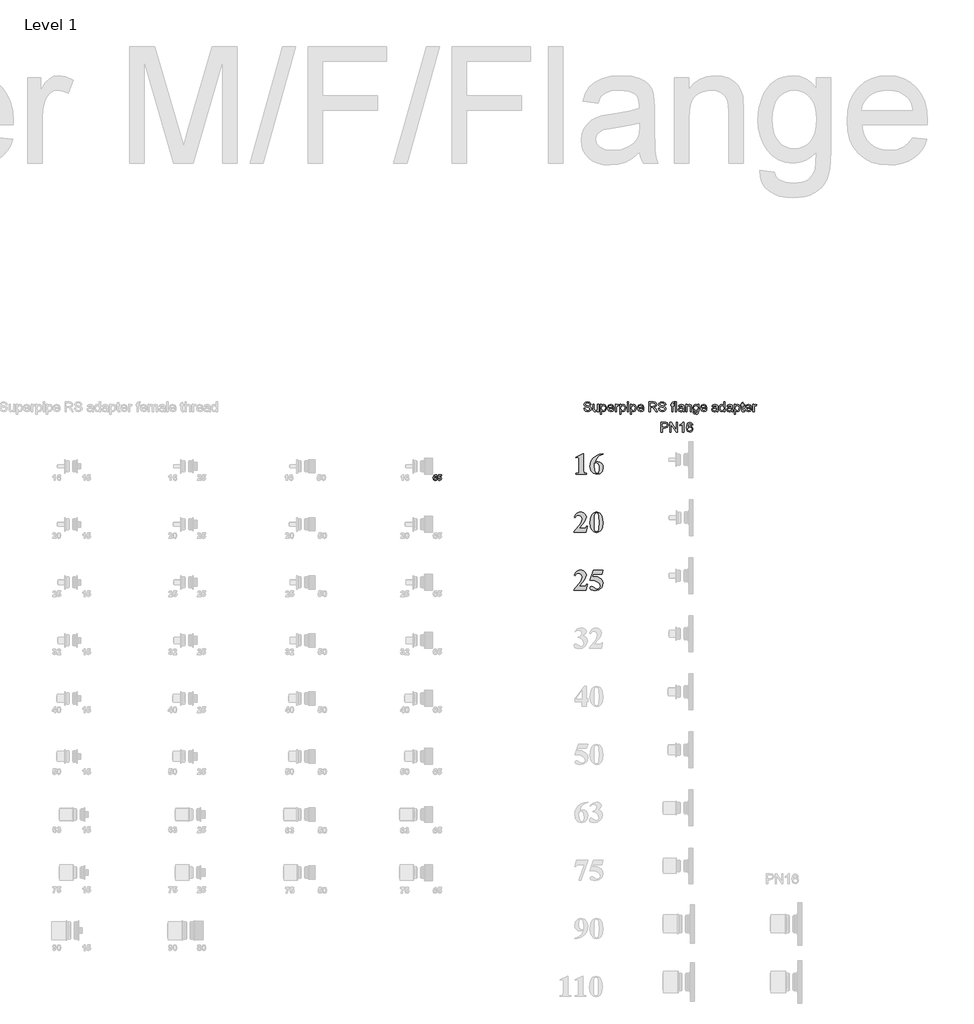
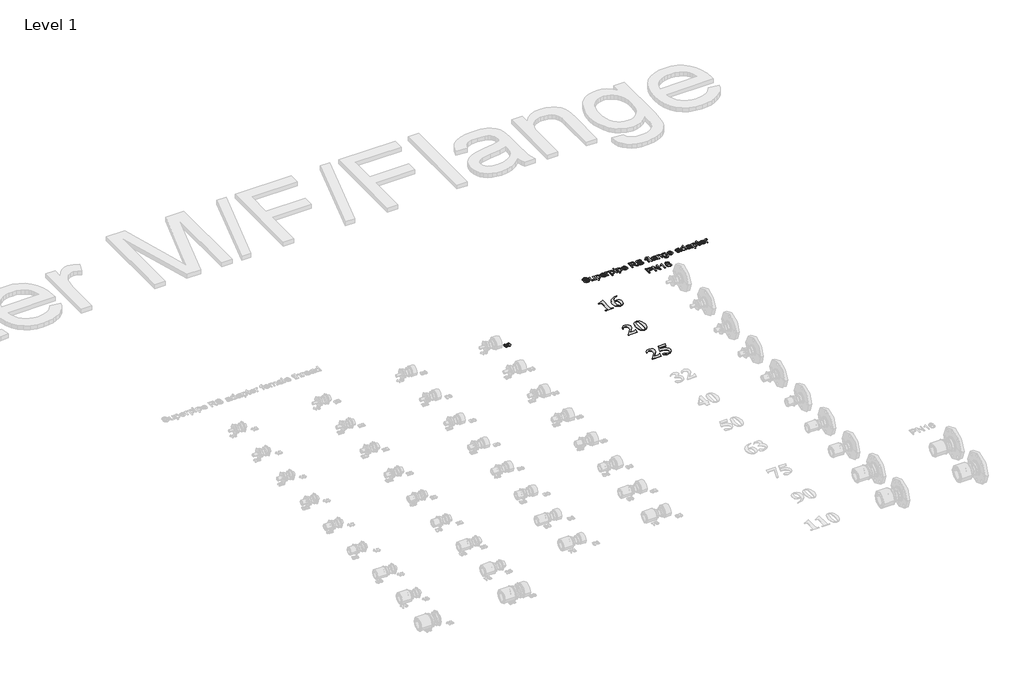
# One storey, part 48 of 57: 6 proxies.
"""IFC4 building model written with IfcOpenShell, lengths in millimetres."""

from ifc_helpers import new_model, si_unit, frame, origin, place, context, project, spatial, polyline, outline, extrude, element, save

model = new_model("IFC4")

# Units and contexts
model_context = context("Model", 3, world=origin())
ifc_project = project(units=[si_unit("LENGTHUNIT", "METRE", prefix="MILLI")], contexts=[model_context])

# Site, building, storey
site = spatial("IfcSite", under=ifc_project)
building = spatial("IfcBuilding", under=site)
storey = spatial("IfcBuildingStorey", under=building, Name="Level 1", Elevation=27.3876384)

# Proxies
placement = place(None, origin())
element("IfcBuildingElementProxy", 1, Name="100mm Arial", ObjectType="100mm Arial", at=placement, inside=storey, context=model_context, shape_type="SweptSolid", body=[
    extrude(outline(polyline([(34348.8058204, 18710.8916255), (34348.8058204, 18627.1351635), (34349.6646513, 18615.4387044), (34353.277194, 18611.2945045), (34362.0836189, 18609.6859006), (34364.510157, 18609.6859006), (34364.510157, 18606.196048), (34308.6725157, 18606.196048), (34308.6725157, 18609.6859006), (34311.4807564, 18609.6859006), (34321.1869089, 18611.1581821), (34325.0993608, 18615.1933242), (34326.1217786, 18627.1351635), (34326.1217786, 18679.4829522), (34325.4674312, 18688.1394225), (34323.0408931, 18691.1248823), (34318.9512221, 18692.3790481), (34309.9812104, 18689.95251), (34308.6725157, 18693.4423626), (34346.3247533, 18710.8916255), (34348.8058204, 18710.8916255)])), frame((0.0, 0.0, 27.3876384), z_axis=(0.0, 0.0, 1.0), x_axis=(1.0, 0.0, 0.0)), (0.0, 0.0, 1.0), 2.0),
    extrude(outline(polyline([(34450.0115453, 18710.8916255), (34450.0115453, 18709.1466992), (34427.9954831, 18700.0676296), (34414.8812715, 18686.5717153), (34407.424438, 18666.91403), (34412.9863906, 18669.4496261), (34422.9651878, 18670.7583208), (34433.5881082, 18668.7032611), (34442.2820671, 18662.5380821), (34448.0791758, 18652.8285215), (34450.0115453, 18640.1403172), (34445.7719197, 18621.8458556), (34433.748287, 18608.9906565), (34417.103326, 18604.4511217), (34399.299625, 18609.6313716), (34386.5398515, 18624.804051), (34381.9594199, 18646.520204), (34384.0621924, 18663.1481247), (34390.37051, 18678.5150634), (34400.5469746, 18691.7519652), (34414.2541886, 18701.989775), (34430.9298221, 18708.5843694), (34450.0115453, 18710.8916255)]), holes=[polyline([(34406.388388, 18661.2975485), (34404.6434617, 18646.1112369), (34406.8382518, 18626.0582168), (34412.8500682, 18612.4668768), (34419.3117484, 18609.6859006), (34426.08697, 18613.7074104), (34429.0724298, 18630.0524621), (34427.7501029, 18647.5698862), (34423.783122, 18658.6801591), (34414.5949945, 18663.7786156), (34406.388388, 18661.2975485)])]), frame((0.0, 0.0, 27.3876384), z_axis=(0.0, 0.0, 1.0), x_axis=(1.0, 0.0, 0.0)), (0.0, 0.0, 1.0), 2.0),
])
element("IfcBuildingElementProxy", 2, Name="100mm Arial", ObjectType="100mm Arial", at=placement, inside=storey, context=model_context, shape_type="SweptSolid", body=[
    extrude(outline(polyline([(34361.8109742, 18306.196048), (34299.9478842, 18306.196048), (34299.9478842, 18307.9409743), (34335.7188732, 18352.5456526), (34341.8261152, 18374.9297852), (34336.6049686, 18388.166687), (34323.8588273, 18393.4423626), (34312.8712446, 18390.5114317), (34304.6646381, 18381.718639), (34301.8563973, 18382.7274246), (34307.1150326, 18395.2281856), (34314.5480097, 18403.9937137), (34323.725913, 18409.1671476), (34334.2193272, 18410.8916255), (34348.7512914, 18407.3063472), (34359.0436301, 18397.4911369), (34362.7652307, 18385.80831), (34357.2578071, 18365.6598643), (34345.2546227, 18349.1171451), (34324.3495878, 18327.1351635), (34346.3247533, 18327.1351635), (34356.8624723, 18327.7349819), (34360.8703498, 18329.7798174), (34365.0009175, 18335.8597949), (34368.0000096, 18335.8597949), (34361.8109742, 18306.196048)])), frame((0.0, 0.0, 27.3876384), z_axis=(0.0, 0.0, 1.0), x_axis=(1.0, 0.0, 0.0)), (0.0, 0.0, 1.0), 2.0),
    extrude(outline(polyline([(34450.0115453, 18357.6713736), (34445.5674362, 18329.0982056), (34438.4514086, 18315.7658781), (34428.3090246, 18307.5047427), (34415.9582182, 18304.4511217), (34402.1760269, 18308.213619), (34391.2838698, 18319.0103504), (34385.3129502, 18332.6425871), (34381.9594199, 18356.4717368), (34386.7852317, 18387.0624758), (34391.7746303, 18397.2491647), (34398.8361289, 18404.7434868), (34415.9582182, 18410.8916255), (34433.0939396, 18404.8252802), (34444.8040309, 18388.5074929), (34450.0115453, 18357.6713736)]), holes=[polyline([(34427.3275035, 18357.6713736), (34426.9730654, 18389.0255179), (34422.8561299, 18403.2303085), (34415.9036892, 18405.6568466), (34410.0690919, 18403.8301269), (34405.7613051, 18394.505677), (34404.6434617, 18347.8561632), (34406.3611236, 18318.6831767), (34410.0554597, 18311.498988), (34416.4217142, 18309.6859006), (34422.8561299, 18312.1124387), (34426.9730654, 18325.1721214), (34427.3275035, 18357.6713736)])]), frame((0.0, 0.0, 27.3876384), z_axis=(0.0, 0.0, 1.0), x_axis=(1.0, 0.0, 0.0)), (0.0, 0.0, 1.0), 2.0),
])
element("IfcBuildingElementProxy", 3, Name="100mm Arial", ObjectType="100mm Arial", at=placement, inside=storey, context=model_context, shape_type="SweptSolid", body=[
    extrude(outline(polyline([(34361.8109742, 18006.196048), (34299.9478842, 18006.196048), (34299.9478842, 18007.9409743), (34335.7188732, 18052.5456526), (34341.8261152, 18074.9297852), (34336.6049686, 18088.166687), (34323.8588273, 18093.4423626), (34312.8712446, 18090.5114317), (34304.6646381, 18081.718639), (34301.8563973, 18082.7274246), (34307.1150326, 18095.2281856), (34314.5480097, 18103.9937137), (34323.725913, 18109.1671476), (34334.2193272, 18110.8916255), (34348.7512914, 18107.3063472), (34359.0436301, 18097.4911369), (34362.7652307, 18085.80831), (34357.2578071, 18065.6598643), (34345.2546227, 18049.1171451), (34324.3495878, 18027.1351635), (34346.3247533, 18027.1351635), (34356.8624723, 18027.7349819), (34360.8703498, 18029.7798174), (34365.0009175, 18035.8597949), (34368.0000096, 18035.8597949), (34361.8109742, 18006.196048)])), frame((0.0, 0.0, 27.3876384), z_axis=(0.0, 0.0, 1.0), x_axis=(1.0, 0.0, 0.0)), (0.0, 0.0, 1.0), 2.0),
    extrude(outline(polyline([(34401.1536091, 18109.1466992), (34450.0115453, 18109.1466992), (34443.0318402, 18088.2075837), (34398.7543355, 18088.2075837), (34395.5643921, 18079.4829522), (34419.8570378, 18075.7068227), (34437.8243258, 18066.3414761), (34446.9647404, 18055.0880647), (34450.0115453, 18041.394483), (34444.3132704, 18022.6910543), (34428.5953015, 18009.0042887), (34406.6065038, 18004.4511217), (34386.7852317, 18009.249669), (34381.9594199, 18016.9655149), (34384.4813837, 18022.8410089), (34390.3568777, 18025.3902372), (34396.4913842, 18024.0815425), (34407.1245288, 18017.1836307), (34415.3038708, 18012.4123479), (34420.729501, 18011.4308268), (34431.5807614, 18015.9976261), (34436.052135, 18026.9715766), (34432.6577081, 18039.0088416), (34422.4744273, 18048.5650395), (34407.1177127, 18054.8017878), (34388.2029843, 18056.8807039), (34381.9594199, 18056.7989104), (34401.1536091, 18109.1466992)])), frame((0.0, 0.0, 27.3876384), z_axis=(0.0, 0.0, 1.0), x_axis=(1.0, 0.0, 0.0)), (0.0, 0.0, 1.0), 2.0),
])
element("IfcBuildingElementProxy", 4, Name="30mm Arial", ObjectType="30mm Arial", at=placement, inside=storey, context=model_context, shape_type="SweptSolid", body=[
    extrude(outline(polyline([(33590.2929, 18596.0640351), (33584.4628463, 18595.4415554), (33583.430441, 18598.0111819), (33581.2593532, 18598.84242), (33578.2684142, 18597.2292867), (33576.7273974, 18590.4541266), (33582.0564309, 18593.0123663), (33588.2167025, 18590.2795286), (33590.7787378, 18583.2272892), (33588.1597684, 18575.8676055), (33581.42636, 18573.0930161), (33574.1843401, 18576.67607), (33571.3452254, 18588.4196808), (33574.3095952, 18600.4897138), (33582.0108836, 18604.1866359), (33587.514515, 18602.1066428), (33590.2929, 18596.0640351)]), holes=[polyline([(33577.1752792, 18583.3563398), (33578.435421, 18579.7163519), (33581.3124918, 18578.437232), (33583.9086876, 18579.4848198), (33584.9486841, 18582.9236405), (33583.8289798, 18586.5256724), (33581.0316168, 18587.6681504), (33578.2949835, 18586.5750153), (33577.1752792, 18583.3563398)])]), frame((0.0, 0.0, 27.3876384), z_axis=(0.0, 0.0, 1.0), x_axis=(1.0, 0.0, 0.0)), (0.0, 0.0, 1.0), 2.0),
    extrude(outline(polyline([(33594.6654403, 18582.1948838), (33600.0096562, 18582.8097723), (33601.4975345, 18579.6138705), (33604.3518316, 18578.437232), (33607.4756169, 18579.685987), (33608.7547368, 18583.4474344), (33607.5667115, 18586.9773498), (33604.4732911, 18588.1539882), (33600.2070278, 18585.7247992), (33595.1512781, 18586.4763295), (33598.5521428, 18603.7007981), (33613.1272771, 18603.7007981), (33613.1272771, 18597.8707444), (33603.2662878, 18597.8707444), (33602.0896493, 18592.3063832), (33605.8473011, 18593.4982041), (33612.0417332, 18590.7387972), (33614.5847905, 18583.5764851), (33612.4668413, 18577.0252659), (33604.4429262, 18573.0930161), (33597.7588607, 18575.5601612), (33594.6654403, 18582.1948838)])), frame((0.0, 0.0, 27.3876384), z_axis=(0.0, 0.0, 1.0), x_axis=(1.0, 0.0, 0.0)), (0.0, 0.0, 1.0), 2.0),
])
element("IfcBuildingElementProxy", 5, Name="50mm Arial", ObjectType="50mm Arial", at=placement, inside=storey, context=model_context, shape_type="SweptSolid", body=[
    extrude(outline(polyline([(34349.6871322, 18946.7630144), (34355.9656516, 18946.7630144), (34357.9890026, 18940.4783637), (34362.930884, 18936.5052381), (34370.4602022, 18934.9907906), (34377.0207645, 18936.1373562), (34381.2575388, 18939.2888786), (34382.649359, 18943.5011274), (34381.6070267, 18947.4190707), (34377.3395955, 18950.2701561), (34368.1977279, 18952.6675205), (34358.3568846, 18955.7638606), (34353.0164643, 18960.4359619), (34351.2567621, 18966.6776931), (34353.4333972, 18973.783947), (34359.7916244, 18978.7994049), (34369.0990388, 18980.5100561), (34379.0318527, 18978.7196971), (34385.6537286, 18973.4589846), (34388.1430635, 18965.5985726), (34381.8645441, 18965.5985726), (34378.3083514, 18972.0487702), (34369.3442935, 18974.2315368), (34360.3557101, 18972.0732957), (34357.5352815, 18966.8616341), (34359.534107, 18962.5083638), (34369.7857519, 18959.0012222), (34380.8957881, 18955.8496997), (34386.9719724, 18950.7606655), (34388.9278784, 18943.660543), (34386.6776668, 18936.1496189), (34380.2029437, 18930.6681772), (34370.7054569, 18928.7122712), (34359.4911874, 18930.8214613), (34352.3971963, 18937.1735571), (34349.6871322, 18946.7630144)])), frame((0.0, 0.0, 27.3876384), z_axis=(0.0, 0.0, 1.0), x_axis=(1.0, 0.0, 0.0)), (0.0, 0.0, 1.0), 2.0),
    extrude(outline(polyline([(34421.1052902, 18929.4970861), (34421.1052902, 18935.8369192), (34416.1879342, 18930.4934332), (34409.7745248, 18928.7122712), (34403.8700187, 18929.96307), (34399.7987913, 18933.1023297), (34397.9287245, 18937.7253801), (34397.5608425, 18943.5624411), (34397.5608425, 18966.3833875), (34403.8393619, 18966.3833875), (34403.8393619, 18946.5177598), (34404.2195066, 18940.1166131), (34406.7027101, 18936.3580853), (34411.3809428, 18934.9907906), (34416.6232612, 18936.3887422), (34420.0874834, 18940.1963208), (34421.1052902, 18947.1922101), (34421.1052902, 18966.3833875), (34427.3838096, 18966.3833875), (34427.3838096, 18929.4970861), (34421.1052902, 18929.4970861)])), frame((0.0, 0.0, 27.3876384), z_axis=(0.0, 0.0, 1.0), x_axis=(1.0, 0.0, 0.0)), (0.0, 0.0, 1.0), 2.0),
    extrude(outline(polyline([(34436.0167738, 18915.3704175), (34436.0167738, 18966.3833875), (34442.2952931, 18966.3833875), (34442.2952931, 18960.2274955), (34446.6363007, 18965.4330257), (34452.4978871, 18967.1682024), (34460.456401, 18964.7401813), (34465.6557998, 18957.8975762), (34467.4093707, 18948.2222797), (34465.4289393, 18938.0503425), (34459.6777174, 18931.1218983), (34451.7375977, 18928.7122712), (34446.2745501, 18930.3248206), (34442.2952931, 18934.4021794), (34442.2952931, 18915.3704175), (34436.0167738, 18915.3704175)]), holes=[polyline([(34442.2952931, 18947.6459312), (34445.0114885, 18938.0809994), (34451.6027076, 18934.9907906), (34458.3288168, 18938.191364), (34461.1308513, 18948.1119151), (34458.3962618, 18957.7013724), (34451.860225, 18960.8896831), (34445.1954295, 18957.4990373), (34442.2952931, 18947.6459312)])]), frame((0.0, 0.0, 27.3876384), z_axis=(0.0, 0.0, 1.0), x_axis=(1.0, 0.0, 0.0)), (0.0, 0.0, 1.0), 2.0),
    extrude(outline(polyline([(34500.298021, 18940.4844951), (34506.4539131, 18939.6996801), (34500.6965599, 18931.5940135), (34489.9727997, 18928.7122712), (34476.9375144, 18933.6848095), (34472.1182602, 18947.6336685), (34476.9865653, 18962.04238), (34489.6171805, 18967.1682024), (34501.886045, 18962.0546427), (34506.6501168, 18947.6704567), (34506.6133286, 18945.9781995), (34478.3967796, 18945.9781995), (34482.0081545, 18937.823482), (34490.095427, 18934.9907906), (34496.2513191, 18936.3029031), (34500.298021, 18940.4844951)]), holes=[polyline([(34478.3967796, 18952.2567189), (34500.3715974, 18952.2567189), (34497.8577371, 18957.9466271), (34489.592655, 18960.8896831), (34481.8610017, 18958.5413697), (34478.3967796, 18952.2567189)])]), frame((0.0, 0.0, 27.3876384), z_axis=(0.0, 0.0, 1.0), x_axis=(1.0, 0.0, 0.0)), (0.0, 0.0, 1.0), 2.0),
    extrude(outline(polyline([(34512.9286362, 18929.4970861), (34512.9286362, 18966.3833875), (34518.4223407, 18966.3833875), (34518.4223407, 18960.9264713), (34522.3218898, 18965.9541919), (34526.2459644, 18967.1682024), (34532.5490093, 18965.2306906), (34530.4520819, 18959.6020961), (34526.037498, 18960.8896831), (34522.4874367, 18959.651147), (34520.2249625, 18956.2175817), (34519.2071556, 18948.8844673), (34519.2071556, 18929.4970861), (34512.9286362, 18929.4970861)])), frame((0.0, 0.0, 27.3876384), z_axis=(0.0, 0.0, 1.0), x_axis=(1.0, 0.0, 0.0)), (0.0, 0.0, 1.0), 2.0),
    extrude(outline(polyline([(34536.4730839, 18915.3704175), (34536.4730839, 18966.3833875), (34542.7516033, 18966.3833875), (34542.7516033, 18960.2274955), (34547.0926108, 18965.4330257), (34552.9541973, 18967.1682024), (34560.9127111, 18964.7401813), (34566.11211, 18957.8975762), (34567.8656808, 18948.2222797), (34565.8852494, 18938.0503425), (34560.1340276, 18931.1218983), (34552.1939078, 18928.7122712), (34546.7308602, 18930.3248206), (34542.7516033, 18934.4021794), (34542.7516033, 18915.3704175), (34536.4730839, 18915.3704175)]), holes=[polyline([(34542.7516033, 18947.6459312), (34545.4677987, 18938.0809994), (34552.0590178, 18934.9907906), (34558.7851269, 18938.191364), (34561.5871614, 18948.1119151), (34558.8525719, 18957.7013724), (34552.3165352, 18960.8896831), (34545.6517397, 18957.4990373), (34542.7516033, 18947.6459312)])]), frame((0.0, 0.0, 27.3876384), z_axis=(0.0, 0.0, 1.0), x_axis=(1.0, 0.0, 0.0)), (0.0, 0.0, 1.0), 2.0),
    extrude(outline(polyline([(34574.9290151, 18929.4970861), (34574.9290151, 18966.3833875), (34581.2075345, 18966.3833875), (34581.2075345, 18929.4970861), (34574.9290151, 18929.4970861)])), frame((0.0, 0.0, 27.3876384), z_axis=(0.0, 0.0, 1.0), x_axis=(1.0, 0.0, 0.0)), (0.0, 0.0, 1.0), 2.0),
    extrude(outline(polyline([(34574.9290151, 18973.4467218), (34574.9290151, 18979.7252412), (34581.2075345, 18979.7252412), (34581.2075345, 18973.4467218), (34574.9290151, 18973.4467218)])), frame((0.0, 0.0, 27.3876384), z_axis=(0.0, 0.0, 1.0), x_axis=(1.0, 0.0, 0.0)), (0.0, 0.0, 1.0), 2.0),
    extrude(outline(polyline([(34590.6253136, 18915.3704175), (34590.6253136, 18966.3833875), (34596.903833, 18966.3833875), (34596.903833, 18960.2274955), (34601.2448405, 18965.4330257), (34607.106427, 18967.1682024), (34615.0649408, 18964.7401813), (34620.2643397, 18957.8975762), (34622.0179105, 18948.2222797), (34620.0374791, 18938.0503425), (34614.2862573, 18931.1218983), (34606.3461375, 18928.7122712), (34600.8830899, 18930.3248206), (34596.903833, 18934.4021794), (34596.903833, 18915.3704175), (34590.6253136, 18915.3704175)]), holes=[polyline([(34596.903833, 18947.6459312), (34599.6200284, 18938.0809994), (34606.2112475, 18934.9907906), (34612.9373566, 18938.191364), (34615.7393911, 18948.1119151), (34613.0048016, 18957.7013724), (34606.4687649, 18960.8896831), (34599.8039694, 18957.4990373), (34596.903833, 18947.6459312)])]), frame((0.0, 0.0, 27.3876384), z_axis=(0.0, 0.0, 1.0), x_axis=(1.0, 0.0, 0.0)), (0.0, 0.0, 1.0), 2.0),
    extrude(outline(polyline([(34654.9065609, 18940.4844951), (34661.0624529, 18939.6996801), (34655.3050997, 18931.5940135), (34644.5813396, 18928.7122712), (34631.5460542, 18933.6848095), (34626.7268001, 18947.6336685), (34631.5951051, 18962.04238), (34644.2257203, 18967.1682024), (34656.4945848, 18962.0546427), (34661.2586567, 18947.6704567), (34661.2218685, 18945.9781995), (34633.0053194, 18945.9781995), (34636.6166944, 18937.823482), (34644.7039669, 18934.9907906), (34650.8598589, 18936.3029031), (34654.9065609, 18940.4844951)]), holes=[polyline([(34633.0053194, 18952.2567189), (34654.9801373, 18952.2567189), (34652.466277, 18957.9466271), (34644.2011948, 18960.8896831), (34636.4695416, 18958.5413697), (34633.0053194, 18952.2567189)])]), frame((0.0, 0.0, 27.3876384), z_axis=(0.0, 0.0, 1.0), x_axis=(1.0, 0.0, 0.0)), (0.0, 0.0, 1.0), 2.0),
    extrude(outline(polyline([(34687.9423641, 18929.4970861), (34687.9423641, 18979.7252412), (34709.5860881, 18979.7252412), (34719.6353979, 18978.3702092), (34725.1291024, 18973.5754805), (34727.1831102, 18965.9787173), (34723.7802018, 18956.9288202), (34713.2649081, 18952.2567189), (34716.8333634, 18949.5711803), (34721.9223977, 18943.10872), (34730.2978444, 18929.4970861), (34723.0015182, 18929.4970861), (34716.4654814, 18939.9081466), (34711.7443291, 18946.7998026), (34708.4272598, 18950.0555583), (34705.4412843, 18951.2511748), (34701.7992525, 18951.471904), (34694.2208834, 18951.471904), (34694.2208834, 18929.4970861), (34687.9423641, 18929.4970861)]), holes=[polyline([(34694.2208834, 18957.7504234), (34708.2739757, 18957.7504234), (34715.4415432, 18958.6394715), (34719.5127706, 18961.4844256), (34720.9045908, 18965.7457254), (34718.2497091, 18971.2762181), (34709.8558682, 18973.4467218), (34694.2208834, 18973.4467218), (34694.2208834, 18957.7504234)])]), frame((0.0, 0.0, 27.3876384), z_axis=(0.0, 0.0, 1.0), x_axis=(1.0, 0.0, 0.0)), (0.0, 0.0, 1.0), 2.0),
    extrude(outline(polyline([(34735.8160744, 18946.7630144), (34742.0945937, 18946.7630144), (34744.1179447, 18940.4783637), (34749.0598262, 18936.5052381), (34756.5891444, 18934.9907906), (34763.1497066, 18936.1373562), (34767.3864809, 18939.2888786), (34768.7783011, 18943.5011274), (34767.7359688, 18947.4190707), (34763.4685377, 18950.2701561), (34754.3266701, 18952.6675205), (34744.4858267, 18955.7638606), (34739.1454064, 18960.4359619), (34737.3857042, 18966.6776931), (34739.5623393, 18973.783947), (34745.9205665, 18978.7994049), (34755.227981, 18980.5100561), (34765.1607948, 18978.7196971), (34771.7826708, 18973.4589846), (34774.2720056, 18965.5985726), (34767.9934862, 18965.5985726), (34764.4372936, 18972.0487702), (34755.4732356, 18974.2315368), (34746.4846522, 18972.0732957), (34743.6642236, 18966.8616341), (34745.6630491, 18962.5083638), (34755.914694, 18959.0012222), (34767.0247303, 18955.8496997), (34773.1009146, 18950.7606655), (34775.0568205, 18943.660543), (34772.806609, 18936.1496189), (34766.3318859, 18930.6681772), (34756.834399, 18928.7122712), (34745.6201295, 18930.8214613), (34738.5261384, 18937.1735571), (34735.8160744, 18946.7630144)])), frame((0.0, 0.0, 27.3876384), z_axis=(0.0, 0.0, 1.0), x_axis=(1.0, 0.0, 0.0)), (0.0, 0.0, 1.0), 2.0),
    extrude(outline(polyline([(34804.8797876, 18929.4970861), (34804.8797876, 18960.1048681), (34799.3860831, 18960.1048681), (34799.3860831, 18966.3833875), (34804.8797876, 18966.3833875), (34804.8797876, 18970.0989957), (34805.5419752, 18975.3351827), (34808.7548113, 18979.0753164), (34815.0823816, 18980.5100561), (34820.809078, 18979.8233431), (34819.889373, 18973.9372312), (34816.2718667, 18974.2315368), (34812.3171353, 18973.1892044), (34811.158307, 18969.301918), (34811.158307, 18966.3833875), (34818.2216413, 18966.3833875), (34818.2216413, 18960.1048681), (34811.158307, 18960.1048681), (34811.158307, 18929.4970861), (34804.8797876, 18929.4970861)])), frame((0.0, 0.0, 27.3876384), z_axis=(0.0, 0.0, 1.0), x_axis=(1.0, 0.0, 0.0)), (0.0, 0.0, 1.0), 2.0),
    extrude(outline(polyline([(34823.7153457, 18929.4970861), (34823.7153457, 18979.7252412), (34829.9938651, 18979.7252412), (34829.9938651, 18929.4970861), (34823.7153457, 18929.4970861)])), frame((0.0, 0.0, 27.3876384), z_axis=(0.0, 0.0, 1.0), x_axis=(1.0, 0.0, 0.0)), (0.0, 0.0, 1.0), 2.0),
    extrude(outline(polyline([(34862.9560919, 18934.2059757), (34856.8676449, 18929.9508073), (34850.1415357, 18928.7122712), (34841.0241936, 18931.6921154), (34837.8420144, 18939.3072727), (34839.0437622, 18944.2736796), (34842.201416, 18947.8789232), (34846.5976058, 18949.9390623), (34852.0299966, 18950.8832928), (34862.9193037, 18953.0415338), (34861.2270465, 18959.0747986), (34854.2863395, 18960.8896831), (34847.9342438, 18959.6818038), (34844.9053487, 18955.3959786), (34838.6268293, 18956.1807935), (34841.3430247, 18962.3121601), (34846.8122037, 18965.9051409), (34855.0956799, 18967.1682024), (34862.7047059, 18966.0522937), (34867.0027938, 18963.2502592), (34868.9280429, 18958.9889594), (34869.2346113, 18953.495255), (34869.2346113, 18945.6838939), (34869.5534423, 18934.7761928), (34870.8042411, 18929.4970861), (34864.5257217, 18929.4970861), (34862.9560919, 18934.2059757)]), holes=[polyline([(34862.9560919, 18946.7630144), (34852.8270743, 18944.8377653), (34847.4253403, 18943.8199585), (34844.9789251, 18942.1644895), (34844.1205337, 18939.7487311), (34845.9906005, 18936.351954), (34851.4781736, 18934.9907906), (34857.8302694, 18936.4929754), (34861.9260223, 18940.1288758), (34862.9193037, 18944.9849181), (34862.9560919, 18946.7630144)])]), frame((0.0, 0.0, 27.3876384), z_axis=(0.0, 0.0, 1.0), x_axis=(1.0, 0.0, 0.0)), (0.0, 0.0, 1.0), 2.0),
    extrude(outline(polyline([(34877.8675754, 18929.4970861), (34877.8675754, 18966.3833875), (34884.1460948, 18966.3833875), (34884.1460948, 18961.2330396), (34888.9469549, 18965.6844117), (34895.5013857, 18967.1682024), (34901.4304172, 18965.972586), (34905.4771192, 18962.8333263), (34907.3594487, 18958.2164072), (34907.6905425, 18952.1463543), (34907.6905425, 18929.4970861), (34901.4120231, 18929.4970861), (34901.4120231, 18951.3002257), (34900.6885219, 18956.8552438), (34898.131742, 18959.7921684), (34893.8213913, 18960.8896831), (34887.009443, 18958.4248737), (34884.1460948, 18949.0684083), (34884.1460948, 18929.4970861), (34877.8675754, 18929.4970861)])), frame((0.0, 0.0, 27.3876384), z_axis=(0.0, 0.0, 1.0), x_axis=(1.0, 0.0, 0.0)), (0.0, 0.0, 1.0), 2.0),
    extrude(outline(polyline([(34914.7538768, 18926.3578264), (34921.0323962, 18925.5730115), (34923.0680099, 18922.2620736), (34929.1625883, 18920.864122), (34935.5882605, 18922.4460146), (34938.6539438, 18926.885124), (34939.0831394, 18934.2059757), (34929.2729529, 18929.4970861), (34922.7997626, 18930.8674466), (34917.9728443, 18934.9785279), (34913.9690619, 18948.1241778), (34915.7655523, 18957.8546566), (34920.9649512, 18964.7401813), (34928.9663846, 18967.1682024), (34939.0831394, 18961.674498), (34939.0831394, 18966.3833875), (34945.3616588, 18966.3833875), (34945.3616588, 18934.5370695), (34943.6448762, 18922.3417813), (34938.206354, 18916.6702672), (34929.039961, 18914.5856026), (34918.5982437, 18917.5225272), (34914.7538768, 18926.3578264)]), holes=[polyline([(34920.2475813, 18948.5533735), (34922.9269885, 18938.8351575), (34929.6530976, 18935.7756055), (34936.366944, 18938.8167634), (34939.0831394, 18948.3694325), (34936.2872363, 18957.7320293), (34929.5549958, 18960.8896831), (34922.9637767, 18957.7810802), (34920.2475813, 18948.5533735)])]), frame((0.0, 0.0, 27.3876384), z_axis=(0.0, 0.0, 1.0), x_axis=(1.0, 0.0, 0.0)), (0.0, 0.0, 1.0), 2.0),
    extrude(outline(polyline([(34980.604754, 18940.4844951), (34986.760646, 18939.6996801), (34981.0032928, 18931.5940135), (34970.2795326, 18928.7122712), (34957.2442473, 18933.6848095), (34952.4249931, 18947.6336685), (34957.2932982, 18962.04238), (34969.9239134, 18967.1682024), (34982.1927779, 18962.0546427), (34986.9568497, 18947.6704567), (34986.9200615, 18945.9781995), (34958.7035125, 18945.9781995), (34962.3148874, 18937.823482), (34970.40216, 18934.9907906), (34976.558052, 18936.3029031), (34980.604754, 18940.4844951)]), holes=[polyline([(34958.7035125, 18952.2567189), (34980.6783303, 18952.2567189), (34978.16447, 18957.9466271), (34969.8993879, 18960.8896831), (34962.1677346, 18958.5413697), (34958.7035125, 18952.2567189)])]), frame((0.0, 0.0, 27.3876384), z_axis=(0.0, 0.0, 1.0), x_axis=(1.0, 0.0, 0.0)), (0.0, 0.0, 1.0), 2.0),
    extrude(outline(polyline([(35036.4001899, 18934.2059757), (35030.3117429, 18929.9508073), (35023.5856337, 18928.7122712), (35014.4682916, 18931.6921154), (35011.2861123, 18939.3072727), (35012.4878602, 18944.2736796), (35015.645514, 18947.8789232), (35020.0417038, 18949.9390623), (35025.4740946, 18950.8832928), (35036.3634017, 18953.0415338), (35034.6711445, 18959.0747986), (35027.7304375, 18960.8896831), (35021.3783417, 18959.6818038), (35018.3494467, 18955.3959786), (35012.0709273, 18956.1807935), (35014.7871227, 18962.3121601), (35020.2563017, 18965.9051409), (35028.5397779, 18967.1682024), (35036.1488039, 18966.0522937), (35040.4468918, 18963.2502592), (35042.3721409, 18958.9889594), (35042.6787093, 18953.495255), (35042.6787093, 18945.6838939), (35042.9975403, 18934.7761928), (35044.2483391, 18929.4970861), (35037.9698197, 18929.4970861), (35036.4001899, 18934.2059757)]), holes=[polyline([(35036.4001899, 18946.7630144), (35026.2711723, 18944.8377653), (35020.8694383, 18943.8199585), (35018.4230231, 18942.1644895), (35017.5646317, 18939.7487311), (35019.4346985, 18936.351954), (35024.9222716, 18934.9907906), (35031.2743674, 18936.4929754), (35035.3701203, 18940.1288758), (35036.3634017, 18944.9849181), (35036.4001899, 18946.7630144)])]), frame((0.0, 0.0, 27.3876384), z_axis=(0.0, 0.0, 1.0), x_axis=(1.0, 0.0, 0.0)), (0.0, 0.0, 1.0), 2.0),
    extrude(outline(polyline([(35074.0713062, 18929.4970861), (35074.0713062, 18935.4199863), (35069.9173053, 18930.3892), (35064.1752805, 18928.7122712), (35056.4007077, 18931.1402924), (35050.9070032, 18937.9154525), (35048.9572287, 18947.9034486), (35050.7537191, 18957.8975762), (35056.1370589, 18964.7769695), (35064.1507551, 18967.1682024), (35069.9387651, 18965.4575512), (35074.0713062, 18961.0123104), (35074.0713062, 18979.7252412), (35080.3498256, 18979.7252412), (35080.3498256, 18929.4970861), (35074.0713062, 18929.4970861)]), holes=[polyline([(35055.235748, 18947.9279741), (35058.0684394, 18938.2097581), (35064.751629, 18934.9907906), (35071.3551108, 18938.0626053), (35074.0713062, 18947.4497275), (35071.3060599, 18957.6400588), (35064.4941116, 18960.8896831), (35057.8844984, 18957.7688175), (35055.235748, 18947.9279741)])]), frame((0.0, 0.0, 27.3876384), z_axis=(0.0, 0.0, 1.0), x_axis=(1.0, 0.0, 0.0)), (0.0, 0.0, 1.0), 2.0),
    extrude(outline(polyline([(35113.3120523, 18934.2059757), (35107.2236053, 18929.9508073), (35100.4974962, 18928.7122712), (35091.3801541, 18931.6921154), (35088.1979748, 18939.3072727), (35089.3997227, 18944.2736796), (35092.5573764, 18947.8789232), (35096.9535663, 18949.9390623), (35102.3859571, 18950.8832928), (35113.2752641, 18953.0415338), (35111.583007, 18959.0747986), (35104.6423, 18960.8896831), (35098.2902042, 18959.6818038), (35095.2613091, 18955.3959786), (35088.9827897, 18956.1807935), (35091.6989851, 18962.3121601), (35097.1681641, 18965.9051409), (35105.4516404, 18967.1682024), (35113.0606663, 18966.0522937), (35117.3587543, 18963.2502592), (35119.2840034, 18958.9889594), (35119.5905717, 18953.495255), (35119.5905717, 18945.6838939), (35119.9094028, 18934.7761928), (35121.1602016, 18929.4970861), (35114.8816822, 18929.4970861), (35113.3120523, 18934.2059757)]), holes=[polyline([(35113.3120523, 18946.7630144), (35103.1830347, 18944.8377653), (35097.7813008, 18943.8199585), (35095.3348855, 18942.1644895), (35094.4764942, 18939.7487311), (35096.346561, 18936.351954), (35101.8341341, 18934.9907906), (35108.1862299, 18936.4929754), (35112.2819828, 18940.1288758), (35113.2752641, 18944.9849181), (35113.3120523, 18946.7630144)])]), frame((0.0, 0.0, 27.3876384), z_axis=(0.0, 0.0, 1.0), x_axis=(1.0, 0.0, 0.0)), (0.0, 0.0, 1.0), 2.0),
    extrude(outline(polyline([(35128.2235359, 18915.3704175), (35128.2235359, 18966.3833875), (35134.5020553, 18966.3833875), (35134.5020553, 18960.2274955), (35138.8430628, 18965.4330257), (35144.7046493, 18967.1682024), (35152.6631631, 18964.7401813), (35157.862562, 18957.8975762), (35159.6161328, 18948.2222797), (35157.6357014, 18938.0503425), (35151.8844795, 18931.1218983), (35143.9443598, 18928.7122712), (35138.4813122, 18930.3248206), (35134.5020553, 18934.4021794), (35134.5020553, 18915.3704175), (35128.2235359, 18915.3704175)]), holes=[polyline([(35134.5020553, 18947.6459312), (35137.2182507, 18938.0809994), (35143.8094697, 18934.9907906), (35150.5355789, 18938.191364), (35153.3376134, 18948.1119151), (35150.6030239, 18957.7013724), (35144.0669871, 18960.8896831), (35137.4021917, 18957.4990373), (35134.5020553, 18947.6459312)])]), frame((0.0, 0.0, 27.3876384), z_axis=(0.0, 0.0, 1.0), x_axis=(1.0, 0.0, 0.0)), (0.0, 0.0, 1.0), 2.0),
    extrude(outline(polyline([(35180.0213208, 18934.7332732), (35180.8061357, 18929.3131451), (35176.1095089, 18928.7122712), (35170.8487964, 18929.7546035), (35168.2245715, 18932.489193), (35167.464282, 18939.613841), (35167.464282, 18960.1048681), (35162.7553925, 18960.1048681), (35162.7553925, 18966.3833875), (35167.464282, 18966.3833875), (35167.464282, 18975.3474455), (35173.7428014, 18979.0385282), (35173.7428014, 18966.3833875), (35180.0213208, 18966.3833875), (35180.0213208, 18960.1048681), (35173.7428014, 18960.1048681), (35173.7428014, 18939.797782), (35174.0738952, 18936.5604204), (35177.2867313, 18934.9907906), (35180.0213208, 18934.7332732)])), frame((0.0, 0.0, 27.3876384), z_axis=(0.0, 0.0, 1.0), x_axis=(1.0, 0.0, 0.0)), (0.0, 0.0, 1.0), 2.0),
    extrude(outline(polyline([(35212.1251562, 18940.4844951), (35218.2810483, 18939.6996801), (35212.5236951, 18931.5940135), (35201.7999349, 18928.7122712), (35188.7646496, 18933.6848095), (35183.9453954, 18947.6336685), (35188.8137005, 18962.04238), (35201.4443157, 18967.1682024), (35213.7131802, 18962.0546427), (35218.477252, 18947.6704567), (35218.4404638, 18945.9781995), (35190.2239148, 18945.9781995), (35193.8352897, 18937.823482), (35201.9225622, 18934.9907906), (35208.0784543, 18936.3029031), (35212.1251562, 18940.4844951)]), holes=[polyline([(35190.2239148, 18952.2567189), (35212.1987326, 18952.2567189), (35209.6848723, 18957.9466271), (35201.4197902, 18960.8896831), (35193.6881369, 18958.5413697), (35190.2239148, 18952.2567189)])]), frame((0.0, 0.0, 27.3876384), z_axis=(0.0, 0.0, 1.0), x_axis=(1.0, 0.0, 0.0)), (0.0, 0.0, 1.0), 2.0),
    extrude(outline(polyline([(35224.7557714, 18929.4970861), (35224.7557714, 18966.3833875), (35230.2494759, 18966.3833875), (35230.2494759, 18960.9264713), (35234.149025, 18965.9541919), (35238.0730996, 18967.1682024), (35244.3761445, 18965.2306906), (35242.2792171, 18959.6020961), (35237.8646332, 18960.8896831), (35234.3145719, 18959.651147), (35232.0520977, 18956.2175817), (35231.0342908, 18948.8844673), (35231.0342908, 18929.4970861), (35224.7557714, 18929.4970861)])), frame((0.0, 0.0, 27.3876384), z_axis=(0.0, 0.0, 1.0), x_axis=(1.0, 0.0, 0.0)), (0.0, 0.0, 1.0), 2.0),
])
element("IfcBuildingElementProxy", 6, Name="50mm Arial", ObjectType="50mm Arial", at=placement, inside=storey, context=model_context, shape_type="SweptSolid", body=[
    extrude(outline(polyline([(34749.2053193, 18823.7542645), (34749.2053193, 18873.9824196), (34767.8201483, 18873.9824196), (34775.324941, 18873.504173), (34781.4256507, 18871.1558596), (34785.3803822, 18866.2998172), (34786.8764356, 18859.4510808), (34782.835865, 18848.5985619), (34768.2493439, 18844.1594525), (34755.4838387, 18844.1594525), (34755.4838387, 18823.7542645), (34749.2053193, 18823.7542645)]), holes=[polyline([(34755.4838387, 18850.4379719), (34768.6172259, 18850.4379719), (34777.8633267, 18852.7433657), (34780.5979162, 18859.2303516), (34778.9853668, 18864.4297504), (34774.7485925, 18867.2747045), (34768.4700731, 18867.7039002), (34755.4838387, 18867.7039002), (34755.4838387, 18850.4379719)])]), frame((0.0, 0.0, 27.3876384), z_axis=(0.0, 0.0, 1.0), x_axis=(1.0, 0.0, 0.0)), (0.0, 0.0, 1.0), 2.0),
    extrude(outline(polyline([(34795.5093998, 18823.7542645), (34795.5093998, 18873.9824196), (34802.2293775, 18873.9824196), (34828.4716265, 18834.1898504), (34828.4716265, 18873.9824196), (34834.7501459, 18873.9824196), (34834.7501459, 18823.7542645), (34828.0301681, 18823.7542645), (34801.7879191, 18863.5590964), (34801.7879191, 18823.7542645), (34795.5093998, 18823.7542645)])), frame((0.0, 0.0, 27.3876384), z_axis=(0.0, 0.0, 1.0), x_axis=(1.0, 0.0, 0.0)), (0.0, 0.0, 1.0), 2.0),
    extrude(outline(polyline([(34866.9275578, 18823.7542645), (34860.6490384, 18823.7542645), (34860.6490384, 18862.8969088), (34854.7016128, 18858.6601345), (34848.0919996, 18855.4902179), (34848.0919996, 18861.4253808), (34857.2951809, 18867.29923), (34862.8808558, 18873.9824196), (34866.9275578, 18873.9824196), (34866.9275578, 18823.7542645)])), frame((0.0, 0.0, 27.3876384), z_axis=(0.0, 0.0, 1.0), x_axis=(1.0, 0.0, 0.0)), (0.0, 0.0, 1.0), 2.0),
    extrude(outline(polyline([(34914.0164531, 18860.6405659), (34907.7379338, 18859.855751), (34905.3589635, 18865.091938), (34899.0681814, 18867.7039002), (34893.4027987, 18866.1833213), (34889.1169734, 18860.475019), (34887.3327458, 18849.285275), (34892.8693698, 18854.2946015), (34899.730369, 18855.9316763), (34910.3989469, 18851.4557787), (34914.8012681, 18839.8920214), (34912.7288662, 18831.2284004), (34907.0266952, 18825.0970338), (34898.7984013, 18822.9694496), (34886.0022392, 18828.6103068), (34882.2912296, 18836.0783113), (34881.0542264, 18847.2006103), (34882.4276525, 18859.7055325), (34886.5479308, 18868.2557232), (34892.1734597, 18872.5507455), (34899.4605889, 18873.9824196), (34909.38114, 18870.4384897), (34914.0164531, 18860.6405659)]), holes=[polyline([(34887.3327458, 18839.9901232), (34888.7858796, 18834.5516011), (34892.6486406, 18830.603001), (34898.3078919, 18829.247969), (34905.7084514, 18832.0561349), (34908.5227487, 18839.6835549), (34905.7452396, 18846.9860125), (34898.0503746, 18849.653157), (34890.4536114, 18846.9860125), (34887.3327458, 18839.9901232)])]), frame((0.0, 0.0, 27.3876384), z_axis=(0.0, 0.0, 1.0), x_axis=(1.0, 0.0, 0.0)), (0.0, 0.0, 1.0), 2.0),
])

save(model, "model.ifc")
